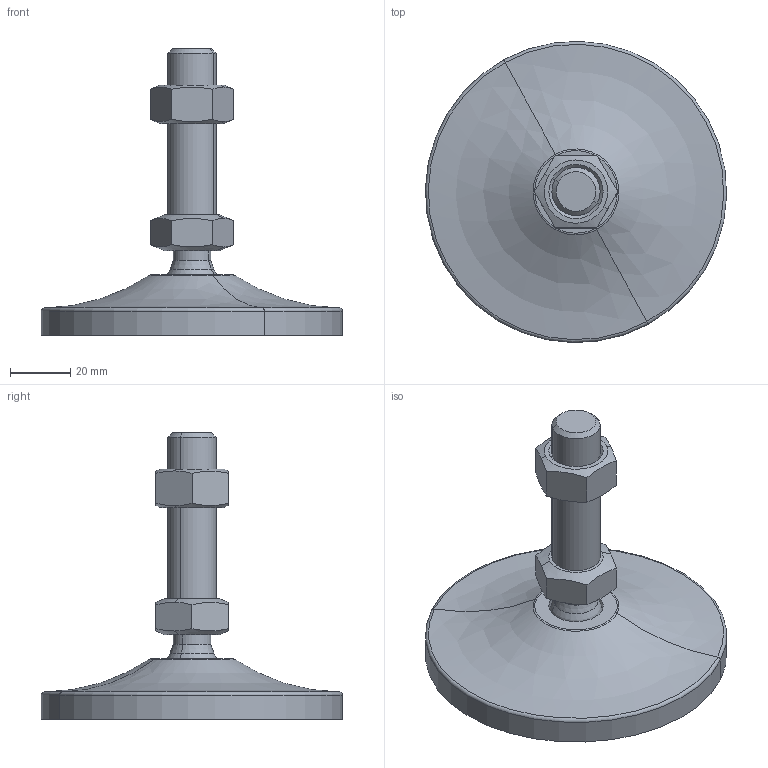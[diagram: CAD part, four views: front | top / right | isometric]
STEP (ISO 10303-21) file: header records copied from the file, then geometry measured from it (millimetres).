
FILE_DESCRIPTION(('CATIA V5 STEP Exchange'),'2;1');
FILE_NAME('C:\Users\ALI OZGUN\Desktop\alhan\saplama2\560102610.stp','2017-09-21T10:34:55+00:00',('none'),('none'),'CATIA Version 5 Release 21 GA (IN-10)','CATIA V5 STEP AP203','none');
FILE_SCHEMA(('CONFIG_CONTROL_DESIGN'));
Length unit declared in the file: millimetre
Products named in the file (1): 560102610
Bounding box: 99.97 x 99.97 x 95 mm (x, y, z)
Volume: 84651.9 mm3; surface area: 28031.8 mm2
Topology: 3 solids, 3 shells, 60 faces, 136 edges, 83 vertices
Faces by surface type: plane 20, cone 16, cylinder 14, torus 4, revolution 4, sphere 2
Entity records: 1875 total; most frequent: CARTESIAN_POINT 633, ORIENTED_EDGE 268, DIRECTION 185, EDGE_CURVE 134, AXIS2_PLACEMENT_3D 99, VERTEX_POINT 83, EDGE_LOOP 67, ADVANCED_FACE 60
